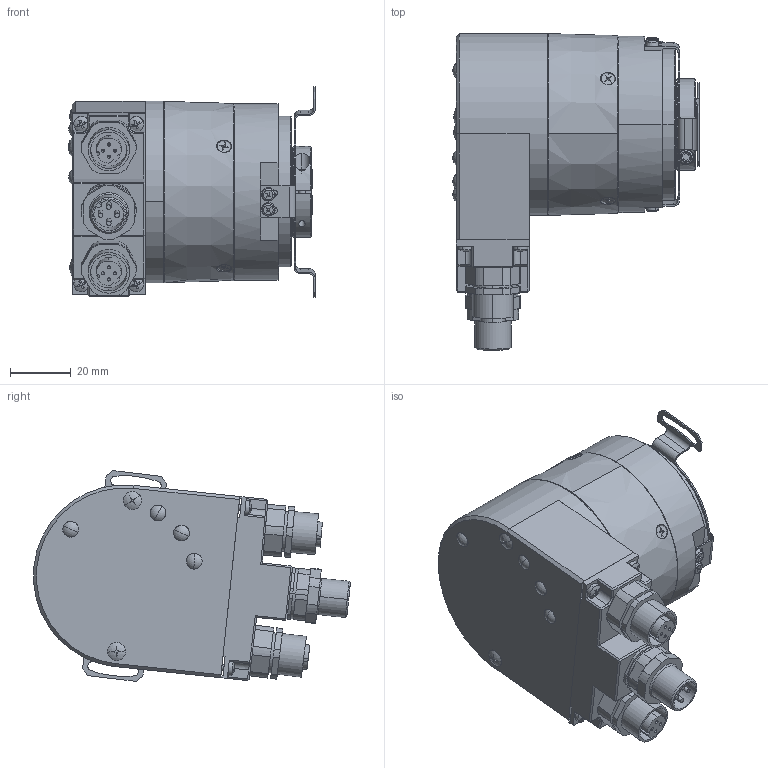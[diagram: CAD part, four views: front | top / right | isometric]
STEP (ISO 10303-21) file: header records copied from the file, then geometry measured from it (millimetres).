
FILE_DESCRIPTION (( 'STEP AP214' ), '1' );
FILE_NAME ('5878.54B2.XXXX.STEP', '2009-01-08T10:33:30', ( 'admin' ), ( 'Fritz Kübler GmbH' ), 'SwSTEP 2.0', 'SolidWorks 2008', '' );
FILE_SCHEMA (( 'AUTOMOTIVE_DESIGN' ));
Length unit declared in the file: millimetre
Products named in the file (1): 5878.54B2.XXXX
Bounding box: 81.17 x 104.3 x 69.44 mm (x, y, z)
Volume: 113416.6 mm3; surface area: 77109 mm2
Topology: 32 solids, 33 shells, 1615 faces, 3901 edges, 2431 vertices
Faces by surface type: plane 657, cylinder 581, cone 242, torus 98, sphere 20, bspline 17
Entity records: 66662 total; most frequent: CARTESIAN_POINT 10015, DIRECTION 8535, ORIENTED_EDGE 7714, EDGE_CURVE 3857, AXIS2_PLACEMENT_3D 3285, VERTEX_POINT 2431, VECTOR 1965, LINE 1965
